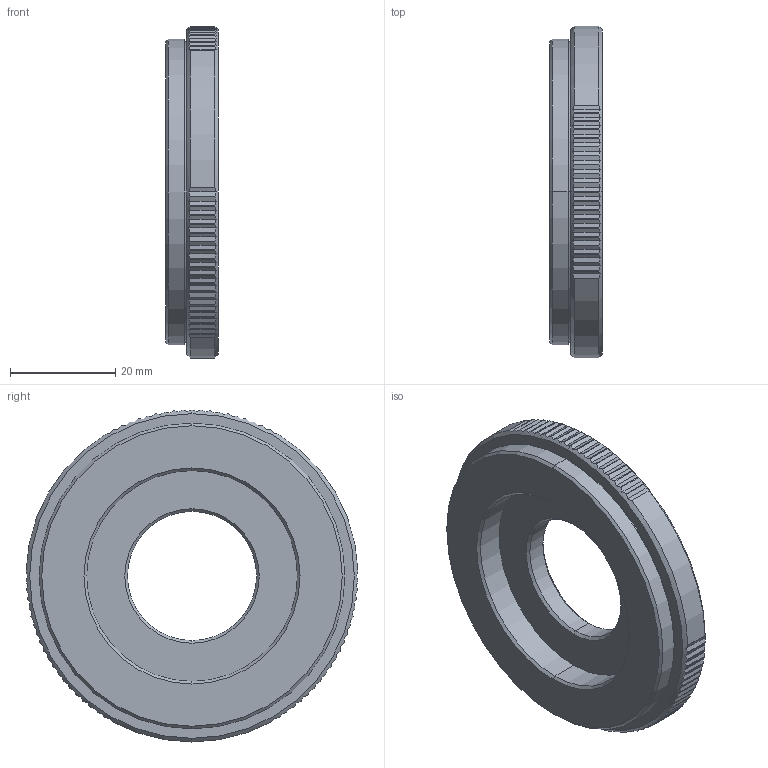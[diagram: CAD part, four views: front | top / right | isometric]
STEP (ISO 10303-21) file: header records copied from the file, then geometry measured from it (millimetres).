
FILE_DESCRIPTION (( 'STEP AP214' ), '1' );
FILE_NAME ('噩芛蛌諉遠M58X0.75-C.STEP', '2023-11-22T05:08:05', ( '' ), ( '' ), 'SwSTEP 2.0', 'SolidWorks 2016', '' );
FILE_SCHEMA (( 'AUTOMOTIVE_DESIGN' ));
Length unit declared in the file: millimetre
Products named in the file (1): 噩芛蛌諉遠M58X0.75-C
Bounding box: 10.02 x 62.98 x 63 mm (x, y, z)
Volume: 20006.7 mm3; surface area: 8151 mm2
Topology: 1 solids, 1 shells, 206 faces, 593 edges, 392 vertices
Faces by surface type: plane 125, cylinder 69, cone 12
Entity records: 7093 total; most frequent: CARTESIAN_POINT 1912, ORIENTED_EDGE 1186, DIRECTION 919, EDGE_CURVE 593, VERTEX_POINT 392, AXIS2_PLACEMENT_3D 359, B_SPLINE_CURVE_WITH_KNOTS 240, EDGE_LOOP 211
